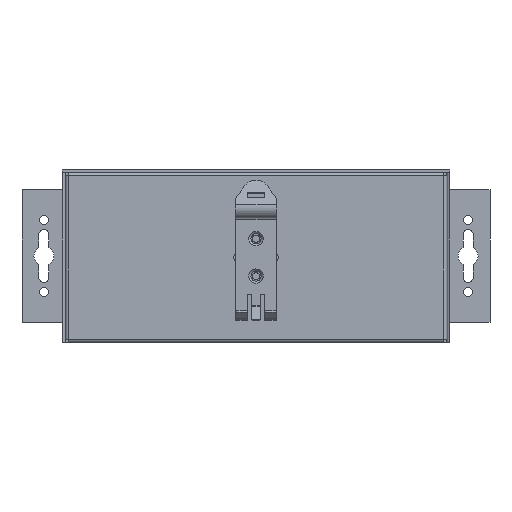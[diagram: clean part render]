
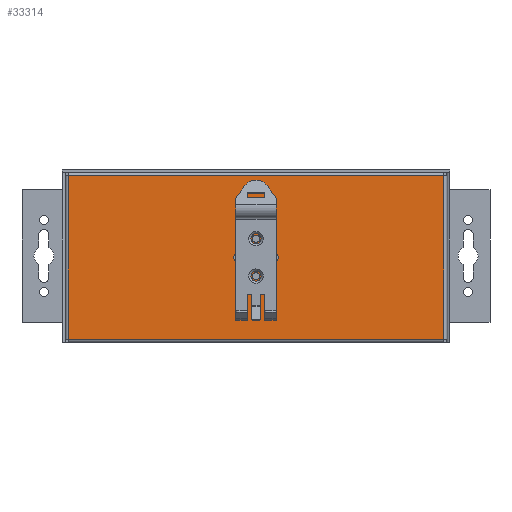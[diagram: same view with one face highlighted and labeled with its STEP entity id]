
A CAD part, front view. The second image highlights one B-rep face of the part: STEP entity #33314.
In plain terms, the highlighted planar face has unit normal (0, -1, 0).
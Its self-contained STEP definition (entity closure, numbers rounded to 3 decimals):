
#1940=FACE_BOUND('',#6698,.T.);
#1941=FACE_BOUND('',#6699,.T.);
#1942=FACE_BOUND('',#6700,.T.);
#1943=FACE_BOUND('',#6701,.T.);
#2865=CIRCLE('',#36058,1.265);
#2867=CIRCLE('',#36061,1.265);
#2869=CIRCLE('',#36064,1.265);
#2871=CIRCLE('',#36067,1.265);
#4538=FACE_OUTER_BOUND('',#6697,.T.);
#6697=EDGE_LOOP('',(#29472,#29473,#29474,#29475));
#6698=EDGE_LOOP('',(#29476));
#6699=EDGE_LOOP('',(#29477));
#6700=EDGE_LOOP('',(#29478));
#6701=EDGE_LOOP('',(#29479));
#9654=LINE('',#68445,#12732);
#9667=LINE('',#68478,#12745);
#9672=LINE('',#68494,#12750);
#9679=LINE('',#68512,#12757);
#12732=VECTOR('',#44038,10.);
#12745=VECTOR('',#44081,10.);
#12750=VECTOR('',#44102,10.);
#12757=VECTOR('',#44129,10.);
#15707=VERTEX_POINT('',#64453);
#15937=VERTEX_POINT('',#68368);
#15939=VERTEX_POINT('',#68374);
#15941=VERTEX_POINT('',#68380);
#15943=VERTEX_POINT('',#68386);
#15958=VERTEX_POINT('',#68442);
#15959=VERTEX_POINT('',#68444);
#15967=VERTEX_POINT('',#68493);
#20464=EDGE_CURVE('',#15937,#15937,#2865,.T.);
#20467=EDGE_CURVE('',#15939,#15939,#2867,.T.);
#20470=EDGE_CURVE('',#15941,#15941,#2869,.T.);
#20473=EDGE_CURVE('',#15943,#15943,#2871,.T.);
#20501=EDGE_CURVE('',#15959,#15958,#9654,.T.);
#20519=EDGE_CURVE('',#15707,#15959,#9667,.T.);
#20528=EDGE_CURVE('',#15967,#15707,#9672,.T.);
#20538=EDGE_CURVE('',#15958,#15967,#9679,.T.);
#29472=ORIENTED_EDGE('',*,*,#20501,.T.);
#29473=ORIENTED_EDGE('',*,*,#20538,.T.);
#29474=ORIENTED_EDGE('',*,*,#20528,.T.);
#29475=ORIENTED_EDGE('',*,*,#20519,.T.);
#29476=ORIENTED_EDGE('',*,*,#20464,.T.);
#29477=ORIENTED_EDGE('',*,*,#20467,.T.);
#29478=ORIENTED_EDGE('',*,*,#20470,.T.);
#29479=ORIENTED_EDGE('',*,*,#20473,.T.);
#31597=PLANE('',#36130);
#33314=ADVANCED_FACE('',(#4538,#1940,#1941,#1942,#1943),#31597,.F.);
#36058=AXIS2_PLACEMENT_3D('',#68369,#43954,#43955);
#36061=AXIS2_PLACEMENT_3D('',#68375,#43961,#43962);
#36064=AXIS2_PLACEMENT_3D('',#68381,#43968,#43969);
#36067=AXIS2_PLACEMENT_3D('',#68387,#43975,#43976);
#36130=AXIS2_PLACEMENT_3D('',#68529,#44154,#44155);
#43954=DIRECTION('center_axis',(0.,1.,0.));
#43955=DIRECTION('ref_axis',(0.,0.,-1.));
#43961=DIRECTION('center_axis',(0.,1.,0.));
#43962=DIRECTION('ref_axis',(0.,0.,-1.));
#43968=DIRECTION('center_axis',(0.,1.,0.));
#43969=DIRECTION('ref_axis',(0.,0.,-1.));
#43975=DIRECTION('center_axis',(0.,1.,0.));
#43976=DIRECTION('ref_axis',(0.,0.,-1.));
#44038=DIRECTION('',(1.,0.,0.));
#44081=DIRECTION('',(0.,0.,-1.));
#44102=DIRECTION('',(-1.,0.,0.));
#44129=DIRECTION('',(0.,0.,1.));
#44154=DIRECTION('center_axis',(0.,1.,0.));
#44155=DIRECTION('ref_axis',(1.,0.,0.));
#64453=CARTESIAN_POINT('',(-1.39,-13.4,3.19));
#68368=CARTESIAN_POINT('',(63.7,-13.4,-30.436));
#68369=CARTESIAN_POINT('Origin',(63.7,-13.4,-31.7));
#68374=CARTESIAN_POINT('',(63.7,-13.4,-17.436));
#68375=CARTESIAN_POINT('Origin',(63.7,-13.4,-18.7));
#68380=CARTESIAN_POINT('',(57.2,-13.4,-23.936));
#68381=CARTESIAN_POINT('Origin',(57.2,-13.4,-25.2));
#68386=CARTESIAN_POINT('',(70.2,-13.4,-23.936));
#68387=CARTESIAN_POINT('Origin',(70.2,-13.4,-25.2));
#68442=CARTESIAN_POINT('',(128.79,-13.4,-53.59));
#68444=CARTESIAN_POINT('',(-1.39,-13.4,-53.59));
#68445=CARTESIAN_POINT('',(96.245,-13.4,-53.59));
#68478=CARTESIAN_POINT('',(-1.39,-13.4,-39.9));
#68493=CARTESIAN_POINT('',(128.79,-13.4,3.19));
#68494=CARTESIAN_POINT('',(31.155,-13.4,3.19));
#68512=CARTESIAN_POINT('',(128.79,-13.4,-10.5));
#68529=CARTESIAN_POINT('Origin',(63.7,-13.4,-25.2));
